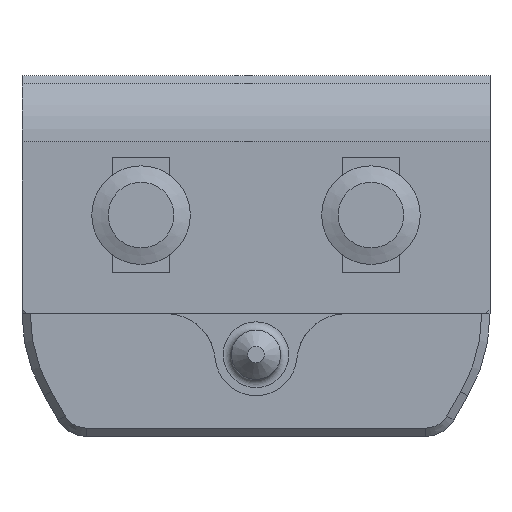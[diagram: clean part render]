
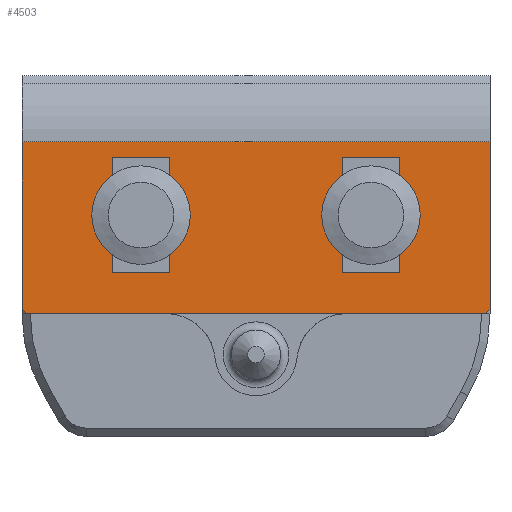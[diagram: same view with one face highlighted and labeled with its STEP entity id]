
A CAD part, front view. The second image highlights one B-rep face of the part: STEP entity #4503.
In plain terms, the highlighted planar face has unit normal (0, -1, 0).
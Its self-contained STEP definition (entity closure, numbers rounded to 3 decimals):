
#178=FACE_BOUND('',#729,.T.);
#179=FACE_BOUND('',#730,.T.);
#455=FACE_OUTER_BOUND('',#728,.T.);
#728=EDGE_LOOP('',(#3921,#3922,#3923,#3924,#3925,#3926));
#729=EDGE_LOOP('',(#3927,#3928,#3929,#3930));
#730=EDGE_LOOP('',(#3931,#3932,#3933,#3934));
#1258=LINE('',#7810,#1684);
#1259=LINE('',#7812,#1685);
#1260=LINE('',#7814,#1686);
#1261=LINE('',#7816,#1687);
#1262=LINE('',#7818,#1688);
#1263=LINE('',#7819,#1689);
#1264=LINE('',#7822,#1690);
#1265=LINE('',#7824,#1691);
#1266=LINE('',#7826,#1692);
#1267=LINE('',#7827,#1693);
#1268=LINE('',#7830,#1694);
#1269=LINE('',#7832,#1695);
#1270=LINE('',#7834,#1696);
#1271=LINE('',#7835,#1697);
#1684=VECTOR('',#5654,10.);
#1685=VECTOR('',#5655,10.);
#1686=VECTOR('',#5656,10.);
#1687=VECTOR('',#5657,10.);
#1688=VECTOR('',#5658,10.);
#1689=VECTOR('',#5659,10.);
#1690=VECTOR('',#5660,10.);
#1691=VECTOR('',#5661,10.);
#1692=VECTOR('',#5662,10.);
#1693=VECTOR('',#5663,10.);
#1694=VECTOR('',#5664,10.);
#1695=VECTOR('',#5665,10.);
#1696=VECTOR('',#5666,10.);
#1697=VECTOR('',#5667,10.);
#2124=VERTEX_POINT('',#7808);
#2125=VERTEX_POINT('',#7809);
#2126=VERTEX_POINT('',#7811);
#2127=VERTEX_POINT('',#7813);
#2128=VERTEX_POINT('',#7815);
#2129=VERTEX_POINT('',#7817);
#2130=VERTEX_POINT('',#7820);
#2131=VERTEX_POINT('',#7821);
#2132=VERTEX_POINT('',#7823);
#2133=VERTEX_POINT('',#7825);
#2134=VERTEX_POINT('',#7828);
#2135=VERTEX_POINT('',#7829);
#2136=VERTEX_POINT('',#7831);
#2137=VERTEX_POINT('',#7833);
#2737=EDGE_CURVE('',#2124,#2125,#1258,.T.);
#2738=EDGE_CURVE('',#2124,#2126,#1259,.T.);
#2739=EDGE_CURVE('',#2127,#2126,#1260,.T.);
#2740=EDGE_CURVE('',#2128,#2127,#1261,.T.);
#2741=EDGE_CURVE('',#2129,#2128,#1262,.T.);
#2742=EDGE_CURVE('',#2125,#2129,#1263,.T.);
#2743=EDGE_CURVE('',#2130,#2131,#1264,.T.);
#2744=EDGE_CURVE('',#2132,#2130,#1265,.T.);
#2745=EDGE_CURVE('',#2133,#2132,#1266,.T.);
#2746=EDGE_CURVE('',#2131,#2133,#1267,.T.);
#2747=EDGE_CURVE('',#2134,#2135,#1268,.T.);
#2748=EDGE_CURVE('',#2136,#2134,#1269,.T.);
#2749=EDGE_CURVE('',#2137,#2136,#1270,.T.);
#2750=EDGE_CURVE('',#2135,#2137,#1271,.T.);
#3921=ORIENTED_EDGE('',*,*,#2737,.F.);
#3922=ORIENTED_EDGE('',*,*,#2738,.T.);
#3923=ORIENTED_EDGE('',*,*,#2739,.F.);
#3924=ORIENTED_EDGE('',*,*,#2740,.F.);
#3925=ORIENTED_EDGE('',*,*,#2741,.F.);
#3926=ORIENTED_EDGE('',*,*,#2742,.F.);
#3927=ORIENTED_EDGE('',*,*,#2743,.F.);
#3928=ORIENTED_EDGE('',*,*,#2744,.F.);
#3929=ORIENTED_EDGE('',*,*,#2745,.F.);
#3930=ORIENTED_EDGE('',*,*,#2746,.F.);
#3931=ORIENTED_EDGE('',*,*,#2747,.F.);
#3932=ORIENTED_EDGE('',*,*,#2748,.F.);
#3933=ORIENTED_EDGE('',*,*,#2749,.F.);
#3934=ORIENTED_EDGE('',*,*,#2750,.F.);
#4229=PLANE('',#4784);
#4503=ADVANCED_FACE('',(#455,#178,#179),#4229,.T.);
#4784=AXIS2_PLACEMENT_3D('',#7807,#5652,#5653);
#5652=DIRECTION('center_axis',(0.,-1.,0.));
#5653=DIRECTION('ref_axis',(0.,0.,1.));
#5654=DIRECTION('',(-0.707,0.,0.707));
#5655=DIRECTION('',(1.,0.,0.));
#5656=DIRECTION('',(-0.707,0.,-0.707));
#5657=DIRECTION('',(0.,0.,-1.));
#5658=DIRECTION('',(1.,0.,0.));
#5659=DIRECTION('',(0.,0.,1.));
#5660=DIRECTION('',(1.,0.,0.));
#5661=DIRECTION('',(0.,0.,-1.));
#5662=DIRECTION('',(-1.,0.,0.));
#5663=DIRECTION('',(0.,0.,1.));
#5664=DIRECTION('',(-1.,0.,0.));
#5665=DIRECTION('',(0.,0.,1.));
#5666=DIRECTION('',(1.,0.,0.));
#5667=DIRECTION('',(0.,0.,-1.));
#7807=CARTESIAN_POINT('Origin',(0.,-45.4,0.));
#7808=CARTESIAN_POINT('',(-28.,-45.4,0.));
#7809=CARTESIAN_POINT('',(-28.5,-45.4,0.5));
#7810=CARTESIAN_POINT('',(-21.125,-45.4,-6.875));
#7811=CARTESIAN_POINT('',(28.,-45.4,0.));
#7812=CARTESIAN_POINT('',(0.,-45.4,0.));
#7813=CARTESIAN_POINT('',(28.5,-45.4,0.5));
#7814=CARTESIAN_POINT('',(21.125,-45.4,-6.875));
#7815=CARTESIAN_POINT('',(28.5,-45.4,20.925));
#7816=CARTESIAN_POINT('',(28.5,-45.4,20.925));
#7817=CARTESIAN_POINT('',(-28.5,-45.4,20.925));
#7818=CARTESIAN_POINT('',(0.,-45.4,20.925));
#7819=CARTESIAN_POINT('',(-28.5,-45.4,20.925));
#7820=CARTESIAN_POINT('',(-17.5,-45.4,5.));
#7821=CARTESIAN_POINT('',(-10.5,-45.4,5.));
#7822=CARTESIAN_POINT('',(-8.75,-45.4,5.));
#7823=CARTESIAN_POINT('',(-17.5,-45.4,19.));
#7824=CARTESIAN_POINT('',(-17.5,-45.4,9.5));
#7825=CARTESIAN_POINT('',(-10.5,-45.4,19.));
#7826=CARTESIAN_POINT('',(-5.25,-45.4,19.));
#7827=CARTESIAN_POINT('',(-10.5,-45.4,2.5));
#7828=CARTESIAN_POINT('',(17.5,-45.4,19.));
#7829=CARTESIAN_POINT('',(10.5,-45.4,19.));
#7830=CARTESIAN_POINT('',(8.75,-45.4,19.));
#7831=CARTESIAN_POINT('',(17.5,-45.4,5.));
#7832=CARTESIAN_POINT('',(17.5,-45.4,2.5));
#7833=CARTESIAN_POINT('',(10.5,-45.4,5.));
#7834=CARTESIAN_POINT('',(5.25,-45.4,5.));
#7835=CARTESIAN_POINT('',(10.5,-45.4,9.5));
